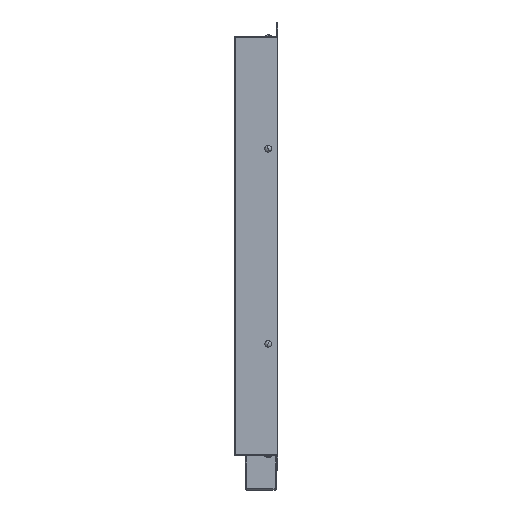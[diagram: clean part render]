
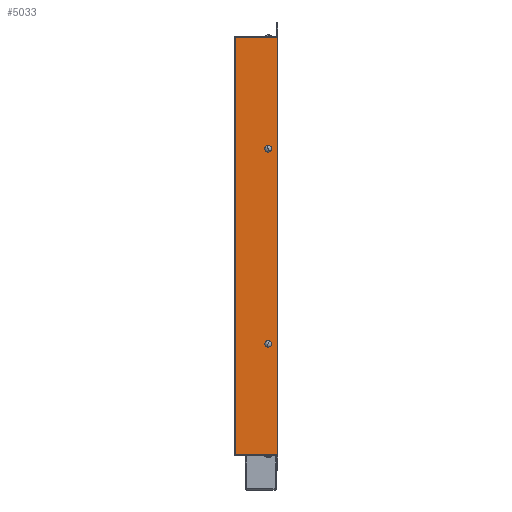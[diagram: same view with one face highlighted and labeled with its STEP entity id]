
A CAD part, left-side view. The second image highlights one B-rep face of the part: STEP entity #5033.
In plain terms, the highlighted planar face has unit normal (-1, 0, 0).
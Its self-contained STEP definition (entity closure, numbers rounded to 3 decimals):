
#194 = ORIENTED_EDGE ( 'NONE', *, *, #925, .T. ) ;
#208 = CARTESIAN_POINT ( 'NONE',  ( -215., 10., 100. ) ) ;
#222 = EDGE_LOOP ( 'NONE', ( #3873, #6327 ) ) ;
#229 = DIRECTION ( 'NONE',  ( -1., 0., 0. ) ) ;
#469 = AXIS2_PLACEMENT_3D ( 'NONE', #3102, #5181, #988 ) ;
#571 = CIRCLE ( 'NONE', #2181, 3.45 ) ;
#831 = VERTEX_POINT ( 'NONE', #3844 ) ;
#925 = EDGE_CURVE ( 'NONE', #1100, #5815, #1378, .T. ) ;
#933 = VERTEX_POINT ( 'NONE', #3434 ) ;
#988 = DIRECTION ( 'NONE',  ( 0., 0.924, 0.382 ) ) ;
#1043 = DIRECTION ( 'NONE',  ( -1., 0., 0. ) ) ;
#1060 = AXIS2_PLACEMENT_3D ( 'NONE', #2219, #229, #3190 ) ;
#1075 = PLANE ( 'NONE',  #5192 ) ;
#1100 = VERTEX_POINT ( 'NONE', #6228 ) ;
#1133 = LINE ( 'NONE', #4198, #2625 ) ;
#1166 = EDGE_CURVE ( 'NONE', #5815, #1548, #3225, .T. ) ;
#1310 = VERTEX_POINT ( 'NONE', #2281 ) ;
#1378 = LINE ( 'NONE', #3468, #2612 ) ;
#1481 = CARTESIAN_POINT ( 'NONE',  ( -215., 653.112, -215. ) ) ;
#1548 = VERTEX_POINT ( 'NONE', #5267 ) ;
#1565 = CARTESIAN_POINT ( 'NONE',  ( -215., 0., -215. ) ) ;
#1568 = EDGE_CURVE ( 'NONE', #933, #1310, #4470, .T. ) ;
#1637 = ORIENTED_EDGE ( 'NONE', *, *, #1166, .T. ) ;
#2052 = EDGE_CURVE ( 'NONE', #4391, #1548, #6179, .T. ) ;
#2078 = FACE_BOUND ( 'NONE', #2693, .T. ) ;
#2134 = CIRCLE ( 'NONE', #1060, 3.45 ) ;
#2181 = AXIS2_PLACEMENT_3D ( 'NONE', #4517, #4988, #4450 ) ;
#2219 = CARTESIAN_POINT ( 'NONE',  ( -215., 10., 100. ) ) ;
#2240 = DIRECTION ( 'NONE',  ( 0., 1., 0. ) ) ;
#2281 = CARTESIAN_POINT ( 'NONE',  ( -215., 13.189, 98.683 ) ) ;
#2479 = ORIENTED_EDGE ( 'NONE', *, *, #2052, .F. ) ;
#2612 = VECTOR ( 'NONE', #6133, 1000. ) ;
#2625 = VECTOR ( 'NONE', #2240, 1000. ) ;
#2637 = DIRECTION ( 'NONE',  ( -1., 0., 0. ) ) ;
#2677 = VERTEX_POINT ( 'NONE', #3447 ) ;
#2693 = EDGE_LOOP ( 'NONE', ( #6534, #5747 ) ) ;
#2726 = DIRECTION ( 'NONE',  ( 0., -1., 0. ) ) ;
#3102 = CARTESIAN_POINT ( 'NONE',  ( -215., 10., -100. ) ) ;
#3190 = DIRECTION ( 'NONE',  ( 0., -0.924, 0.382 ) ) ;
#3225 = LINE ( 'NONE', #5283, #5494 ) ;
#3434 = CARTESIAN_POINT ( 'NONE',  ( -215., 6.811, 101.317 ) ) ;
#3447 = CARTESIAN_POINT ( 'NONE',  ( -215., 13.189, -98.683 ) ) ;
#3468 = CARTESIAN_POINT ( 'NONE',  ( -215., 44., -215. ) ) ;
#3494 = EDGE_CURVE ( 'NONE', #4391, #1100, #1133, .T. ) ;
#3606 = FACE_OUTER_BOUND ( 'NONE', #6293, .T. ) ;
#3623 = DIRECTION ( 'NONE',  ( 0., 0., -1. ) ) ;
#3651 = CARTESIAN_POINT ( 'NONE',  ( -215., 44., -214. ) ) ;
#3820 = CARTESIAN_POINT ( 'NONE',  ( -215., 0., 214. ) ) ;
#3844 = CARTESIAN_POINT ( 'NONE',  ( -215., 6.811, -101.317 ) ) ;
#3873 = ORIENTED_EDGE ( 'NONE', *, *, #1568, .F. ) ;
#4146 = DIRECTION ( 'NONE',  ( 0., 0., 1. ) ) ;
#4198 = CARTESIAN_POINT ( 'NONE',  ( -215., 653.112, 214. ) ) ;
#4257 = AXIS2_PLACEMENT_3D ( 'NONE', #208, #2637, #4764 ) ;
#4391 = VERTEX_POINT ( 'NONE', #3820 ) ;
#4450 = DIRECTION ( 'NONE',  ( 0., 0.924, 0.382 ) ) ;
#4470 = CIRCLE ( 'NONE', #4257, 3.45 ) ;
#4515 = EDGE_CURVE ( 'NONE', #2677, #831, #571, .T. ) ;
#4517 = CARTESIAN_POINT ( 'NONE',  ( -215., 10., -100. ) ) ;
#4586 = EDGE_CURVE ( 'NONE', #831, #2677, #6486, .T. ) ;
#4764 = DIRECTION ( 'NONE',  ( 0., -0.924, 0.382 ) ) ;
#4968 = VECTOR ( 'NONE', #3623, 1000. ) ;
#4988 = DIRECTION ( 'NONE',  ( -1., 0., 0. ) ) ;
#5033 = ADVANCED_FACE ( 'NONE', ( #3606, #2078, #5658 ), #1075, .T. ) ;
#5181 = DIRECTION ( 'NONE',  ( -1., 0., 0. ) ) ;
#5192 = AXIS2_PLACEMENT_3D ( 'NONE', #1481, #1043, #4146 ) ;
#5267 = CARTESIAN_POINT ( 'NONE',  ( -215., 0., -214. ) ) ;
#5283 = CARTESIAN_POINT ( 'NONE',  ( -215., 653.112, -214. ) ) ;
#5494 = VECTOR ( 'NONE', #2726, 1000. ) ;
#5658 = FACE_BOUND ( 'NONE', #222, .T. ) ;
#5747 = ORIENTED_EDGE ( 'NONE', *, *, #4586, .F. ) ;
#5815 = VERTEX_POINT ( 'NONE', #3651 ) ;
#6133 = DIRECTION ( 'NONE',  ( 0., 0., -1. ) ) ;
#6179 = LINE ( 'NONE', #1565, #4968 ) ;
#6228 = CARTESIAN_POINT ( 'NONE',  ( -215., 44., 214. ) ) ;
#6233 = EDGE_CURVE ( 'NONE', #1310, #933, #2134, .T. ) ;
#6293 = EDGE_LOOP ( 'NONE', ( #2479, #6622, #194, #1637 ) ) ;
#6327 = ORIENTED_EDGE ( 'NONE', *, *, #6233, .F. ) ;
#6486 = CIRCLE ( 'NONE', #469, 3.45 ) ;
#6534 = ORIENTED_EDGE ( 'NONE', *, *, #4515, .F. ) ;
#6622 = ORIENTED_EDGE ( 'NONE', *, *, #3494, .T. ) ;
